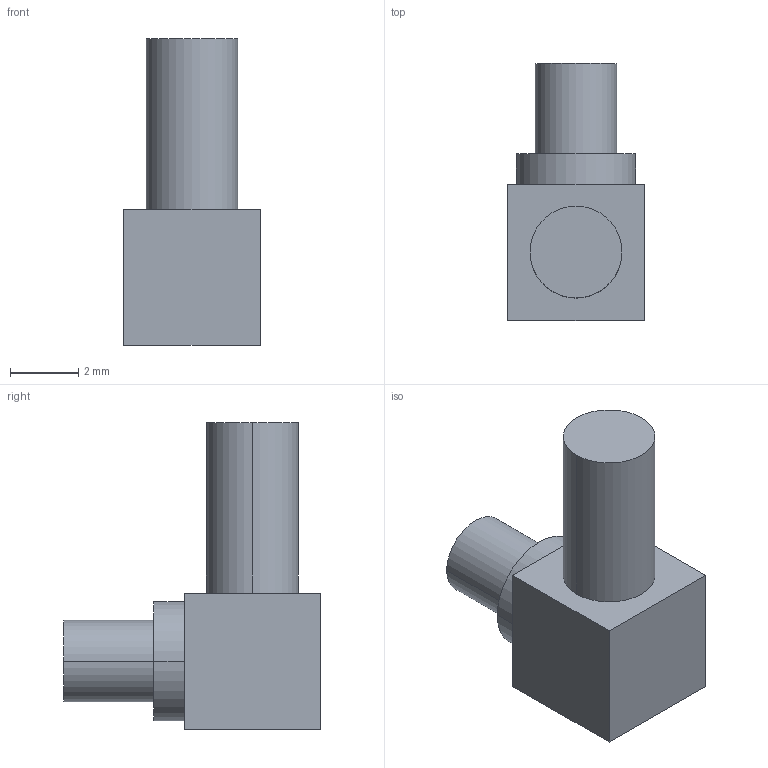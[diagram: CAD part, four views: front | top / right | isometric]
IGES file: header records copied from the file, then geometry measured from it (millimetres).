
Start section:  PTC IGES file: gps-ant-ext-mmcx-plug_prt.igs
Global section: file name: gps-ant-ext-mmcx-plug_prt.igs; native system: Pro/ENGINEER by Parametric Technology Corporation; preprocessor: 2006170; author: GRA; organization: Unknown; date: 20080630.105141; units: millimetre
Bounding box: 4 x 7.55 x 9 mm (x, y, z)
Surface area: 168.3 mm2 (no closed solid volume)
Topology: 0 solids, 0 shells, 15 faces, 60 edges, 60 vertices
Faces by surface type: bspline 9, revolution 6
